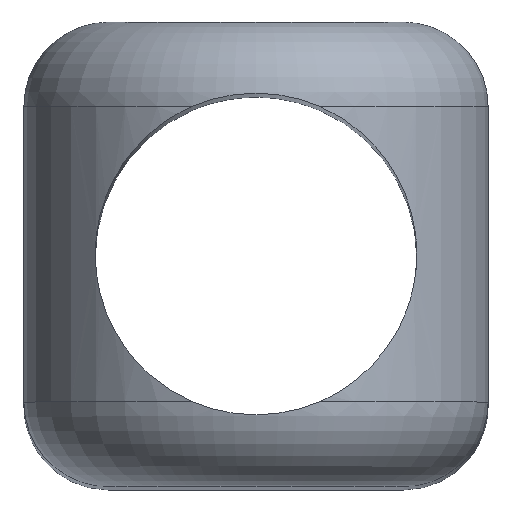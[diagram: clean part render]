
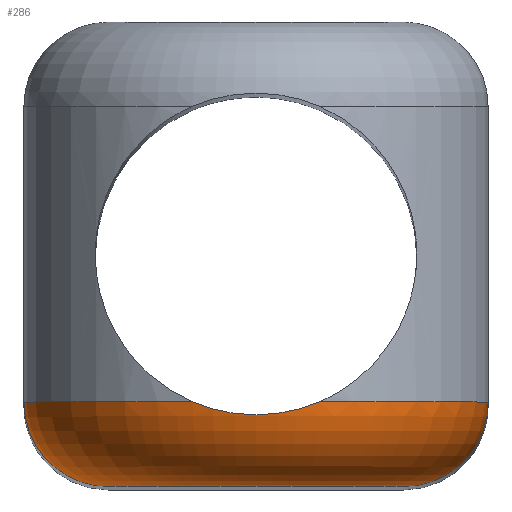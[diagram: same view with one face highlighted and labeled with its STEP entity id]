
A CAD part, top view. The second image highlights one B-rep face of the part: STEP entity #286.
In plain terms, the highlighted toroidal (fillet/blend) face has major radius 7 mm and minor radius 4 mm.
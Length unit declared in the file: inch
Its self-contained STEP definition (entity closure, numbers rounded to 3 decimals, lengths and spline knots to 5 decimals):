
#15=TOROIDAL_SURFACE('',#322,0.27559,0.15748);
#30=FACE_OUTER_BOUND('',#47,.T.);
#47=EDGE_LOOP('',(#210,#211,#212,#213,#214,#215));
#102=CIRCLE('',#323,0.43307);
#103=CIRCLE('',#324,0.15748);
#104=CIRCLE('',#325,0.27559);
#105=CIRCLE('',#326,0.15748);
#106=CIRCLE('',#327,0.43307);
#116=B_SPLINE_CURVE_WITH_KNOTS('',3,(#495,#496,#497,#498,#499,#500,#501,
#502,#503,#504,#505,#506,#507,#508),.UNSPECIFIED.,.F.,.F.,(4,2,2,2,2,2,
4),(-0.6255,-0.46151,-0.37508,-0.31634,
-0.25951,-0.17974,0.),.UNSPECIFIED.);
#125=VERTEX_POINT('',#479);
#126=VERTEX_POINT('',#494);
#134=VERTEX_POINT('',#546);
#135=VERTEX_POINT('',#548);
#136=VERTEX_POINT('',#550);
#137=VERTEX_POINT('',#552);
#151=EDGE_CURVE('',#126,#125,#116,.T.);
#163=EDGE_CURVE('',#125,#134,#102,.T.);
#164=EDGE_CURVE('',#135,#134,#103,.T.);
#165=EDGE_CURVE('',#135,#136,#104,.T.);
#166=EDGE_CURVE('',#136,#137,#105,.T.);
#167=EDGE_CURVE('',#137,#126,#106,.T.);
#210=ORIENTED_EDGE('',*,*,#151,.T.);
#211=ORIENTED_EDGE('',*,*,#163,.T.);
#212=ORIENTED_EDGE('',*,*,#164,.F.);
#213=ORIENTED_EDGE('',*,*,#165,.T.);
#214=ORIENTED_EDGE('',*,*,#166,.T.);
#215=ORIENTED_EDGE('',*,*,#167,.T.);
#286=ADVANCED_FACE('',(#30),#15,.T.);
#322=AXIS2_PLACEMENT_3D('',#545,#372,#373);
#323=AXIS2_PLACEMENT_3D('',#547,#374,#375);
#324=AXIS2_PLACEMENT_3D('',#549,#376,#377);
#325=AXIS2_PLACEMENT_3D('',#551,#378,#379);
#326=AXIS2_PLACEMENT_3D('',#553,#380,#381);
#327=AXIS2_PLACEMENT_3D('',#554,#382,#383);
#372=DIRECTION('center_axis',(0.,1.,0.));
#373=DIRECTION('ref_axis',(0.,0.,1.));
#374=DIRECTION('center_axis',(0.,-1.,0.));
#375=DIRECTION('ref_axis',(0.,0.,1.));
#376=DIRECTION('center_axis',(0.,0.,-1.));
#377=DIRECTION('ref_axis',(0.,-1.,0.));
#378=DIRECTION('center_axis',(0.,1.,0.));
#379=DIRECTION('ref_axis',(0.,0.,1.));
#380=DIRECTION('center_axis',(0.,0.,1.));
#381=DIRECTION('ref_axis',(0.,-1.,0.));
#382=DIRECTION('center_axis',(0.,-1.,0.));
#383=DIRECTION('ref_axis',(0.,0.,1.));
#479=CARTESIAN_POINT('',(-0.11853,-0.27559,4.31417));
#494=CARTESIAN_POINT('',(0.11853,-0.27559,4.31417));
#495=CARTESIAN_POINT('Ctrl Pts',(0.11853,-0.27559,4.31417));
#496=CARTESIAN_POINT('Ctrl Pts',(0.0994,-0.28382,
4.31962));
#497=CARTESIAN_POINT('Ctrl Pts',(0.0791,-0.29017,
4.32332));
#498=CARTESIAN_POINT('Ctrl Pts',(0.04703,-0.29651,4.3269));
#499=CARTESIAN_POINT('Ctrl Pts',(0.03581,-0.29807,4.32776));
#500=CARTESIAN_POINT('Ctrl Pts',(0.01682,-0.29963,
4.32861));
#501=CARTESIAN_POINT('Ctrl Pts',(0.00911,-0.29996,
4.32878));
#502=CARTESIAN_POINT('Ctrl Pts',(-0.00607,-0.30003,
4.32882));
#503=CARTESIAN_POINT('Ctrl Pts',(-0.01353,-0.29979,
4.32869));
#504=CARTESIAN_POINT('Ctrl Pts',(-0.03141,-0.29853,
4.32801));
#505=CARTESIAN_POINT('Ctrl Pts',(-0.0418,-0.29726,
4.32732));
#506=CARTESIAN_POINT('Ctrl Pts',(-0.0752,-0.29137,
4.32401));
#507=CARTESIAN_POINT('Ctrl Pts',(-0.09757,-0.28461,
4.32014));
#508=CARTESIAN_POINT('Ctrl Pts',(-0.11853,-0.27559,
4.31417));
#545=CARTESIAN_POINT('Origin',(0.,-0.27559,
3.89764));
#546=CARTESIAN_POINT('',(-0.43307,-0.27559,3.89764));
#547=CARTESIAN_POINT('Origin',(0.,-0.27559,
3.89764));
#548=CARTESIAN_POINT('',(-0.27559,-0.43307,3.89764));
#549=CARTESIAN_POINT('Origin',(-0.27559,-0.27559,3.89764));
#550=CARTESIAN_POINT('',(0.27559,-0.43307,3.89764));
#551=CARTESIAN_POINT('Origin',(0.,-0.43307,
3.89764));
#552=CARTESIAN_POINT('',(0.43307,-0.27559,3.89764));
#553=CARTESIAN_POINT('Origin',(0.27559,-0.27559,3.89764));
#554=CARTESIAN_POINT('Origin',(0.,-0.27559,
3.89764));
